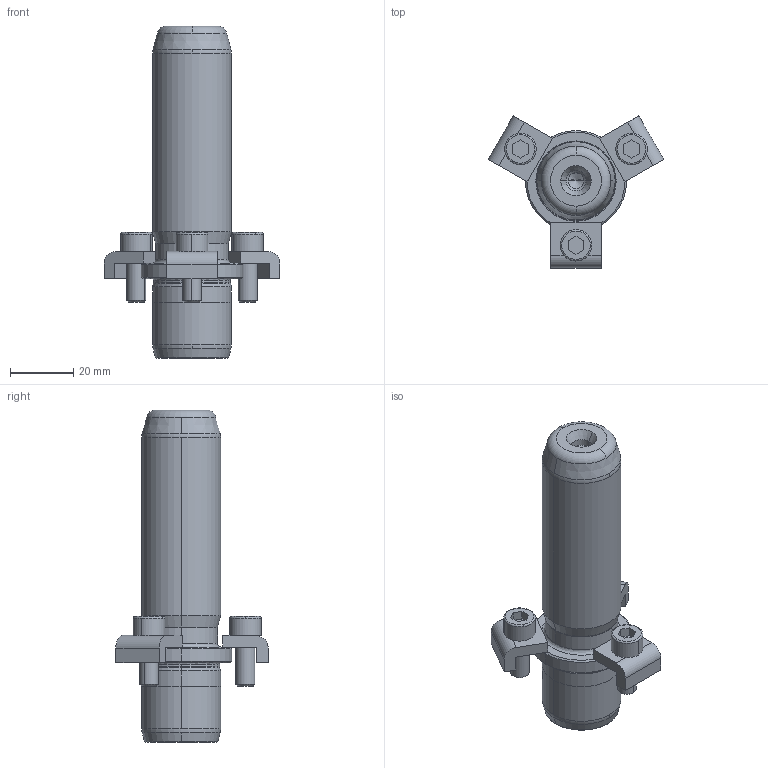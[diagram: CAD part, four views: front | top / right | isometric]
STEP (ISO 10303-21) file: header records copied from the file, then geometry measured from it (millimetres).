
FILE_DESCRIPTION((''),'2;1');
FILE_NAME('P21_025_080.stp','2008-12-23T09:29:41',(''),(''),'Mechanical Desktop 2009','Mechanical Desktop 2009',', , ');
FILE_SCHEMA(('CONFIG_CONTROL_DESIGN'));
Length unit declared in the file: millimetre
Products named in the file (2): Product; blmdl1
Assembly tree (1 placements, depth 2):
  Product
    blmdl1
Bounding box: 55.58 x 48.13 x 105 mm (x, y, z)
Volume: 55939.3 mm3; surface area: 14879.1 mm2
Topology: 7 solids, 7 shells, 163 faces, 417 edges, 269 vertices
Faces by surface type: plane 59, cylinder 44, cone 32, torus 14, bspline 14
Entity records: 5679 total; most frequent: CARTESIAN_POINT 1511, DIRECTION 914, ORIENTED_EDGE 826, EDGE_CURVE 413, AXIS2_PLACEMENT_3D 362, VERTEX_POINT 269, CIRCLE 211, VECTOR 190
